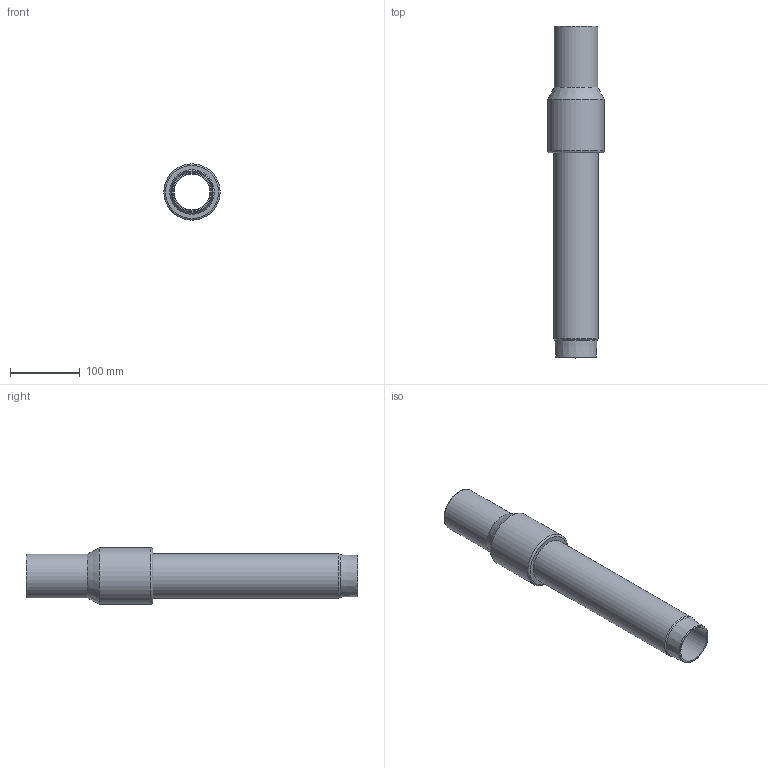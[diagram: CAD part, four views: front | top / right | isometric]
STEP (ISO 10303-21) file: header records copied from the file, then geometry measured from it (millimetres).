
FILE_DESCRIPTION(/* description */ ('Unknown'),/* implementation_level */ '2;1');
FILE_NAME(/* name */ 'RTFZRP063C',/* time_stamp */ '2022-04-27T09:04:32+02:00',/* author */ ('Unknown'),/* organization */ ('Unknown'),/* preprocessor_version */ 'ST-DEVELOPER v18.1',/* originating_system */ 'Solid Edge',/* authorisation */ 'Unknown');
FILE_SCHEMA (('AUTOMOTIVE_DESIGN {1 0 10303 214 3 1 1}'));
Length unit declared in the file: millimetre
Products named in the file (4): RTFZRP063C; Partea ACCIAIO; copertura tubo; Parte PE__oa_0
Assembly tree (3 placements, depth 2):
  RTFZRP063C
    Partea ACCIAIO
    copertura tubo
    Parte PE__oa_0
Bounding box: 81 x 477 x 81 mm (x, y, z)
Volume: 634057.4 mm3; surface area: 345115.5 mm2
Topology: 3 solids, 3 shells, 21 faces, 36 edges, 22 vertices
Faces by surface type: cylinder 8, plane 7, cone 4, torus 2
Full cylindrical faces by diameter (mm): 51.4 x1, 53.1 x1, 60.3 x2, 63 x1, 63.9 x2, 81 x1
Entity records: 574 total; most frequent: DIRECTION 92, CARTESIAN_POINT 67, AXIS2_PLACEMENT_3D 46, ORIENTED_EDGE 42, EDGE_LOOP 42, FACE_BOUND 42, EDGE_CURVE 21, VERTEX_POINT 21
